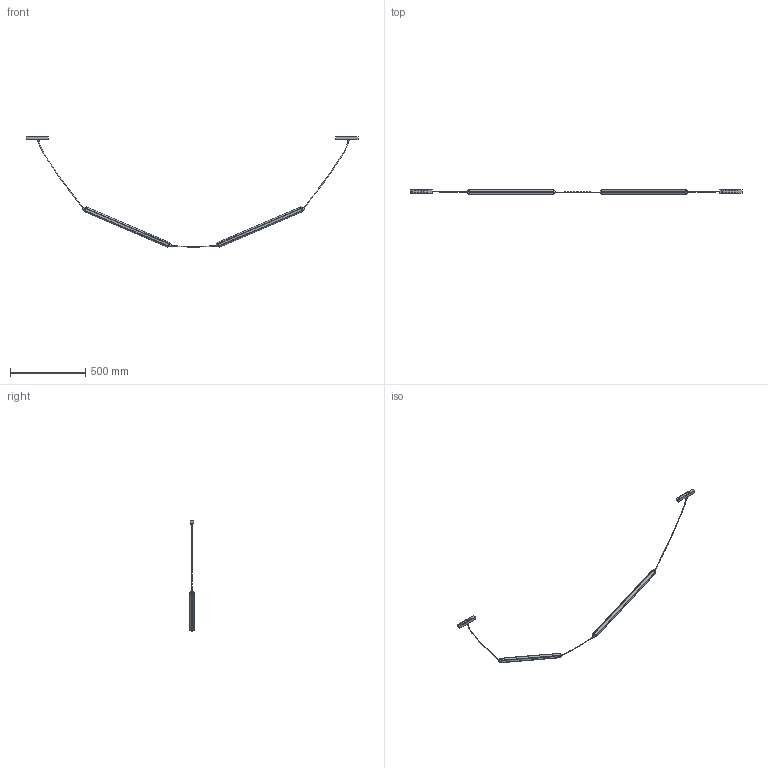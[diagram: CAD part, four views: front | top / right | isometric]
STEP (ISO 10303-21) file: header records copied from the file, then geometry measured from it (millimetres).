
FILE_DESCRIPTION(/* description */ (''),/* implementation_level */ '2;1');
FILE_NAME(/* name */ '64622141_3d',/* time_stamp */ '2026-05-11T12:46:06+02:00',/* author */ (''),/* organization */ (''),/* preprocessor_version */ 'ST-DEVELOPER v19.2',/* originating_system */ 'Rhino 8.30',/* authorisation */ '');
FILE_SCHEMA (('CONFIG_CONTROL_DESIGN'));
Length unit declared in the file: millimetre
Products named in the file (1): Document
Bounding box: 2199.59 x 29.26 x 731.86 mm (x, y, z)
Volume: 462587.2 mm3; surface area: 241567.6 mm2
Topology: 11 solids, 13 shells, 291 faces, 810 edges, 520 vertices
Faces by surface type: cylinder 140, plane 133, bspline 18
Entity records: 13179 total; most frequent: CARTESIAN_POINT 6600, ORIENTED_EDGE 1560, EDGE_CURVE 802, DIRECTION 791, AXIS2_PLACEMENT_3D 532, VERTEX_POINT 520, B_SPLINE_CURVE_WITH_KNOTS 516, EDGE_LOOP 335
